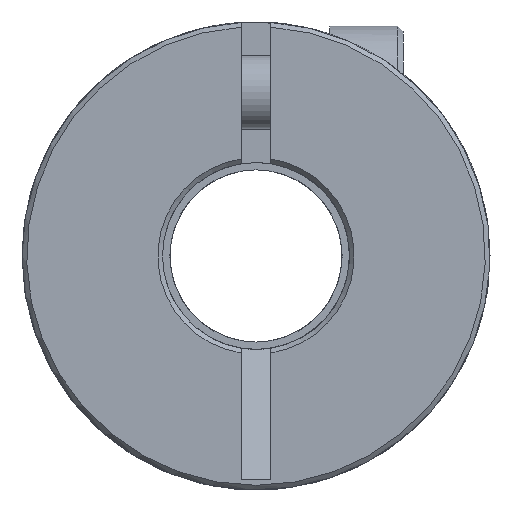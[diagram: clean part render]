
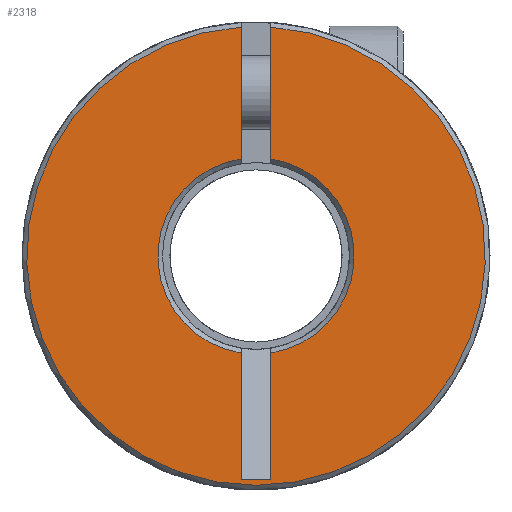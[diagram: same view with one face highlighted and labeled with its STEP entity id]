
A CAD part, front view. The second image highlights one B-rep face of the part: STEP entity #2318.
In plain terms, the highlighted planar face has unit normal (0, -1, 0).
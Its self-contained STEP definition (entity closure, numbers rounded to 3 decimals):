
#1=DIRECTION('',(0.,0.,-1.));
#2=VECTOR('',#1,4.477);
#3=CARTESIAN_POINT('',(-0.5,-11.,7.774));
#4=LINE('',#3,#2);
#5=DIRECTION('',(0.,0.,-1.));
#6=VECTOR('',#5,4.303);
#7=CARTESIAN_POINT('',(-0.5,-11.,-3.297));
#8=LINE('',#7,#6);
#9=DIRECTION('',(1.,0.,0.));
#10=VECTOR('',#9,1.);
#11=CARTESIAN_POINT('',(-0.5,-11.,-7.6));
#12=LINE('',#11,#10);
#13=DIRECTION('',(0.,0.,-1.));
#14=VECTOR('',#13,4.303);
#15=CARTESIAN_POINT('',(0.5,-11.,-3.297));
#16=LINE('',#15,#14);
#17=DIRECTION('',(0.,0.,-1.));
#18=VECTOR('',#17,4.477);
#19=CARTESIAN_POINT('',(0.5,-11.,7.774));
#20=LINE('',#19,#18);
#35=CARTESIAN_POINT('',(0.,-11.,0.));
#36=DIRECTION('',(0.,-1.,0.));
#37=DIRECTION('',(-0.064,0.,0.998));
#38=AXIS2_PLACEMENT_3D('',#35,#36,#37);
#80=CARTESIAN_POINT('',(0.,-11.,0.));
#81=DIRECTION('',(0.,1.,0.));
#82=DIRECTION('',(-0.15,0.,-0.989));
#83=AXIS2_PLACEMENT_3D('',#80,#81,#82);
#92=CARTESIAN_POINT('',(0.,-11.,0.));
#93=DIRECTION('',(0.,1.,0.));
#94=DIRECTION('',(0.15,0.,0.989));
#95=AXIS2_PLACEMENT_3D('',#92,#93,#94);
#2163=CARTESIAN_POINT('',(-0.5,-11.,7.774));
#2164=CARTESIAN_POINT('',(-0.5,-11.,3.297));
#2165=VERTEX_POINT('',#2163);
#2166=VERTEX_POINT('',#2164);
#2167=CARTESIAN_POINT('',(-0.5,-11.,-3.297));
#2168=CARTESIAN_POINT('',(-0.5,-11.,-7.6));
#2169=VERTEX_POINT('',#2167);
#2170=VERTEX_POINT('',#2168);
#2171=CARTESIAN_POINT('',(0.5,-11.,7.774));
#2172=CARTESIAN_POINT('',(0.5,-11.,3.297));
#2173=VERTEX_POINT('',#2171);
#2174=VERTEX_POINT('',#2172);
#2175=CARTESIAN_POINT('',(0.5,-11.,-3.297));
#2176=CARTESIAN_POINT('',(0.5,-11.,-7.6));
#2177=VERTEX_POINT('',#2175);
#2178=VERTEX_POINT('',#2176);
#2295=CARTESIAN_POINT('',(0.,-11.,0.));
#2296=DIRECTION('',(0.,1.,0.));
#2297=DIRECTION('',(1.,0.,0.));
#2298=AXIS2_PLACEMENT_3D('',#2295,#2296,#2297);
#2299=PLANE('',#2298);
#2301=ORIENTED_EDGE('',*,*,#2300,.T.);
#2303=ORIENTED_EDGE('',*,*,#2302,.F.);
#2305=ORIENTED_EDGE('',*,*,#2304,.T.);
#2307=ORIENTED_EDGE('',*,*,#2306,.T.);
#2309=ORIENTED_EDGE('',*,*,#2308,.F.);
#2311=ORIENTED_EDGE('',*,*,#2310,.F.);
#2313=ORIENTED_EDGE('',*,*,#2312,.F.);
#2315=ORIENTED_EDGE('',*,*,#2314,.F.);
#2316=EDGE_LOOP('',(#2301,#2303,#2305,#2307,#2309,#2311,#2313,#2315));
#2317=FACE_OUTER_BOUND('',#2316,.F.);
#2318=ADVANCED_FACE('',(#2317),#2299,.F.);
#39=CIRCLE('',#38,7.79);
#84=CIRCLE('',#83,3.335);
#96=CIRCLE('',#95,3.335);
#2300=EDGE_CURVE('',#2165,#2166,#4,.T.);
#2302=EDGE_CURVE('',#2169,#2166,#84,.T.);
#2304=EDGE_CURVE('',#2169,#2170,#8,.T.);
#2306=EDGE_CURVE('',#2170,#2178,#12,.T.);
#2308=EDGE_CURVE('',#2177,#2178,#16,.T.);
#2310=EDGE_CURVE('',#2174,#2177,#96,.T.);
#2312=EDGE_CURVE('',#2173,#2174,#20,.T.);
#2314=EDGE_CURVE('',#2165,#2173,#39,.T.);
